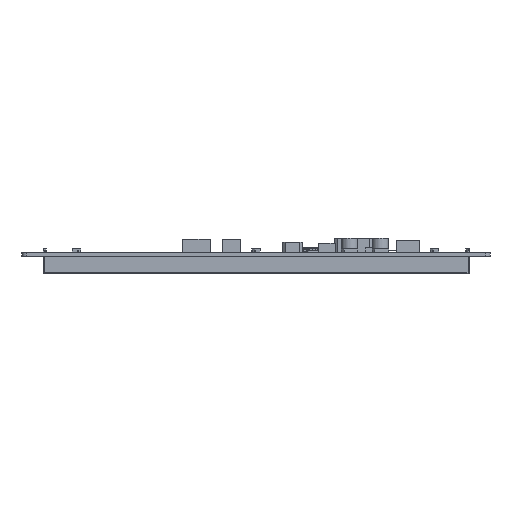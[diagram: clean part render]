
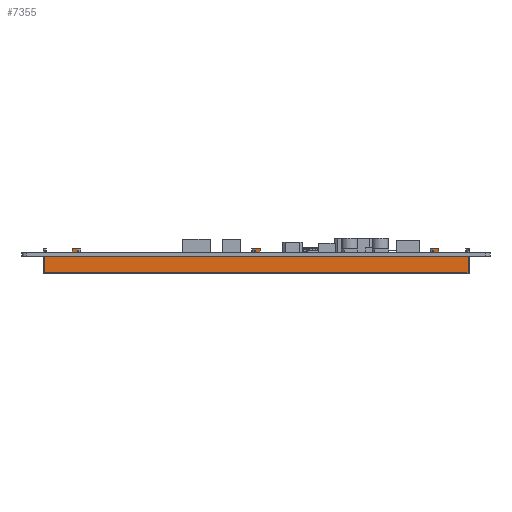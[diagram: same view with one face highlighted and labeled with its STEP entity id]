
A CAD part, left-side view. The second image highlights one B-rep face of the part: STEP entity #7355.
In plain terms, the highlighted planar face has unit normal (-1, 0, 0).
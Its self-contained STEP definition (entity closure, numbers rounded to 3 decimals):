
#4548=PLANE('',#63285);
#7355=ADVANCED_FACE('',(#10672),#4548,.T.);
#10672=FACE_OUTER_BOUND('',#13674,.T.);
#13674=EDGE_LOOP('',(#28948,#28949,#28950,#28951,#28952,#28953,#28954,#28955,
#28956,#28957,#28958,#28959,#28960,#28961,#28962,#28963,#28964,#28965,#28966,
#28967,#28968,#28969));
#28948=ORIENTED_EDGE('',*,*,#43136,.F.);
#28949=ORIENTED_EDGE('',*,*,#43137,.T.);
#28950=ORIENTED_EDGE('',*,*,#43138,.T.);
#28951=ORIENTED_EDGE('',*,*,#43139,.F.);
#28952=ORIENTED_EDGE('',*,*,#43140,.F.);
#28953=ORIENTED_EDGE('',*,*,#43141,.F.);
#28954=ORIENTED_EDGE('',*,*,#43142,.T.);
#28955=ORIENTED_EDGE('',*,*,#43143,.T.);
#28956=ORIENTED_EDGE('',*,*,#43144,.T.);
#28957=ORIENTED_EDGE('',*,*,#43133,.F.);
#28958=ORIENTED_EDGE('',*,*,#43145,.F.);
#28959=ORIENTED_EDGE('',*,*,#43146,.F.);
#28960=ORIENTED_EDGE('',*,*,#43147,.T.);
#28961=ORIENTED_EDGE('',*,*,#43148,.T.);
#28962=ORIENTED_EDGE('',*,*,#43149,.T.);
#28963=ORIENTED_EDGE('',*,*,#43129,.F.);
#28964=ORIENTED_EDGE('',*,*,#43150,.F.);
#28965=ORIENTED_EDGE('',*,*,#43151,.T.);
#28966=ORIENTED_EDGE('',*,*,#43152,.F.);
#28967=ORIENTED_EDGE('',*,*,#43153,.F.);
#28968=ORIENTED_EDGE('',*,*,#43154,.T.);
#28969=ORIENTED_EDGE('',*,*,#43127,.F.);
#35172=VERTEX_POINT('',#94328);
#35174=VERTEX_POINT('',#94332);
#35175=VERTEX_POINT('',#94336);
#35177=VERTEX_POINT('',#94339);
#35179=VERTEX_POINT('',#94345);
#35181=VERTEX_POINT('',#94348);
#35183=VERTEX_POINT('',#94354);
#35184=VERTEX_POINT('',#94356);
#35185=VERTEX_POINT('',#94358);
#35186=VERTEX_POINT('',#94360);
#35187=VERTEX_POINT('',#94362);
#35188=VERTEX_POINT('',#94364);
#35189=VERTEX_POINT('',#94366);
#35190=VERTEX_POINT('',#94368);
#35191=VERTEX_POINT('',#94371);
#35192=VERTEX_POINT('',#94373);
#35193=VERTEX_POINT('',#94375);
#35194=VERTEX_POINT('',#94377);
#35195=VERTEX_POINT('',#94380);
#35196=VERTEX_POINT('',#94382);
#35197=VERTEX_POINT('',#94384);
#35198=VERTEX_POINT('',#94386);
#43127=EDGE_CURVE('',#35174,#35172,#51607,.T.);
#43129=EDGE_CURVE('',#35175,#35177,#51609,.T.);
#43133=EDGE_CURVE('',#35179,#35181,#51613,.T.);
#43136=EDGE_CURVE('',#35183,#35174,#51616,.T.);
#43137=EDGE_CURVE('',#35183,#35184,#51617,.T.);
#43138=EDGE_CURVE('',#35184,#35185,#51618,.T.);
#43139=EDGE_CURVE('',#35186,#35185,#51619,.T.);
#43140=EDGE_CURVE('',#35187,#35186,#51620,.T.);
#43141=EDGE_CURVE('',#35188,#35187,#51621,.T.);
#43142=EDGE_CURVE('',#35188,#35189,#51622,.T.);
#43143=EDGE_CURVE('',#35189,#35190,#51623,.T.);
#43144=EDGE_CURVE('',#35190,#35181,#51624,.T.);
#43145=EDGE_CURVE('',#35191,#35179,#51625,.T.);
#43146=EDGE_CURVE('',#35192,#35191,#51626,.T.);
#43147=EDGE_CURVE('',#35192,#35193,#51627,.T.);
#43148=EDGE_CURVE('',#35193,#35194,#51628,.T.);
#43149=EDGE_CURVE('',#35194,#35177,#51629,.T.);
#43150=EDGE_CURVE('',#35195,#35175,#51630,.T.);
#43151=EDGE_CURVE('',#35195,#35196,#51631,.T.);
#43152=EDGE_CURVE('',#35197,#35196,#51632,.T.);
#43153=EDGE_CURVE('',#35198,#35197,#51633,.T.);
#43154=EDGE_CURVE('',#35198,#35172,#51634,.T.);
#51607=LINE('',#94333,#58812);
#51609=LINE('',#94338,#58814);
#51613=LINE('',#94347,#58818);
#51616=LINE('',#94353,#58821);
#51617=LINE('',#94355,#58822);
#51618=LINE('',#94357,#58823);
#51619=LINE('',#94359,#58824);
#51620=LINE('',#94361,#58825);
#51621=LINE('',#94363,#58826);
#51622=LINE('',#94365,#58827);
#51623=LINE('',#94367,#58828);
#51624=LINE('',#94369,#58829);
#51625=LINE('',#94370,#58830);
#51626=LINE('',#94372,#58831);
#51627=LINE('',#94374,#58832);
#51628=LINE('',#94376,#58833);
#51629=LINE('',#94378,#58834);
#51630=LINE('',#94379,#58835);
#51631=LINE('',#94381,#58836);
#51632=LINE('',#94383,#58837);
#51633=LINE('',#94385,#58838);
#51634=LINE('',#94387,#58839);
#58812=VECTOR('',#77228,1.);
#58814=VECTOR('',#77232,1.);
#58818=VECTOR('',#77238,1.);
#58821=VECTOR('',#77243,1.);
#58822=VECTOR('',#77244,1.);
#58823=VECTOR('',#77245,1.);
#58824=VECTOR('',#77246,1.);
#58825=VECTOR('',#77247,1.);
#58826=VECTOR('',#77248,1.);
#58827=VECTOR('',#77249,1.);
#58828=VECTOR('',#77250,1.);
#58829=VECTOR('',#77251,1.);
#58830=VECTOR('',#77252,1.);
#58831=VECTOR('',#77253,1.);
#58832=VECTOR('',#77254,1.);
#58833=VECTOR('',#77255,1.);
#58834=VECTOR('',#77256,1.);
#58835=VECTOR('',#77257,1.);
#58836=VECTOR('',#77258,1.);
#58837=VECTOR('',#77259,1.);
#58838=VECTOR('',#77260,1.);
#58839=VECTOR('',#77261,1.);
#63285=AXIS2_PLACEMENT_3D('',#94388,#77262,#77263);
#77228=DIRECTION('',(0.,-1.,0.));
#77232=DIRECTION('',(0.,-1.,0.));
#77238=DIRECTION('',(0.,-1.,0.));
#77243=DIRECTION('',(0.,0.,1.));
#77244=DIRECTION('',(0.,-1.,0.));
#77245=DIRECTION('',(0.,0.,1.));
#77246=DIRECTION('',(0.,-1.,0.));
#77247=DIRECTION('',(0.,0.,-1.));
#77248=DIRECTION('',(0.,-1.,0.));
#77249=DIRECTION('',(0.,0.,-1.));
#77250=DIRECTION('',(0.,-1.,0.));
#77251=DIRECTION('',(0.,0.,-1.));
#77252=DIRECTION('',(0.,0.,-1.));
#77253=DIRECTION('',(0.,-1.,0.));
#77254=DIRECTION('',(0.,0.,-1.));
#77255=DIRECTION('',(0.,-1.,0.));
#77256=DIRECTION('',(0.,0.,-1.));
#77257=DIRECTION('',(0.,0.,-1.));
#77258=DIRECTION('',(0.,-1.,0.));
#77259=DIRECTION('',(0.,0.,-1.));
#77260=DIRECTION('',(0.,-1.,0.));
#77261=DIRECTION('',(0.,0.,-1.));
#77262=DIRECTION('',(-1.,0.,0.));
#77263=DIRECTION('',(0.,-1.,0.));
#94328=CARTESIAN_POINT('',(-110.155,109.34,-1.6));
#94332=CARTESIAN_POINT('',(-110.155,120.865,-1.6));
#94333=CARTESIAN_POINT('',(-110.155,120.865,-1.6));
#94336=CARTESIAN_POINT('',(-110.155,107.34,-1.6));
#94338=CARTESIAN_POINT('',(-110.155,120.865,-1.6));
#94339=CARTESIAN_POINT('',(-110.155,33.463,-1.6));
#94345=CARTESIAN_POINT('',(-110.155,31.463,-1.6));
#94347=CARTESIAN_POINT('',(-110.155,120.865,-1.6));
#94348=CARTESIAN_POINT('',(-110.155,-40.462,-1.6));
#94353=CARTESIAN_POINT('',(-110.155,120.865,-8.8));
#94354=CARTESIAN_POINT('',(-110.155,120.865,-8.4));
#94355=CARTESIAN_POINT('',(-110.155,-54.535,-8.4));
#94356=CARTESIAN_POINT('',(-110.155,-54.535,-8.4));
#94357=CARTESIAN_POINT('',(-110.155,-54.535,-8.8));
#94358=CARTESIAN_POINT('',(-110.155,-54.535,-1.6));
#94359=CARTESIAN_POINT('',(-110.155,120.865,-1.6));
#94360=CARTESIAN_POINT('',(-110.155,-42.462,-1.6));
#94361=CARTESIAN_POINT('',(-110.155,-42.462,0.));
#94362=CARTESIAN_POINT('',(-110.155,-42.462,1.6));
#94363=CARTESIAN_POINT('',(-110.155,-40.344,1.6));
#94364=CARTESIAN_POINT('',(-110.155,-40.344,1.6));
#94365=CARTESIAN_POINT('',(-110.155,-40.344,1.6));
#94366=CARTESIAN_POINT('',(-110.155,-40.344,0.));
#94367=CARTESIAN_POINT('',(-110.155,-40.344,0.));
#94368=CARTESIAN_POINT('',(-110.155,-40.462,0.));
#94369=CARTESIAN_POINT('',(-110.155,-40.462,0.));
#94370=CARTESIAN_POINT('',(-110.155,31.463,0.));
#94371=CARTESIAN_POINT('',(-110.155,31.463,1.6));
#94372=CARTESIAN_POINT('',(-110.155,33.581,1.6));
#94373=CARTESIAN_POINT('',(-110.155,33.581,1.6));
#94374=CARTESIAN_POINT('',(-110.155,33.581,1.6));
#94375=CARTESIAN_POINT('',(-110.155,33.581,0.));
#94376=CARTESIAN_POINT('',(-110.155,33.581,0.));
#94377=CARTESIAN_POINT('',(-110.155,33.463,0.));
#94378=CARTESIAN_POINT('',(-110.155,33.463,0.));
#94379=CARTESIAN_POINT('',(-110.155,107.34,0.));
#94380=CARTESIAN_POINT('',(-110.155,107.34,0.));
#94381=CARTESIAN_POINT('',(-110.155,109.34,0.));
#94382=CARTESIAN_POINT('',(-110.155,107.196,0.));
#94383=CARTESIAN_POINT('',(-110.155,107.196,1.6));
#94384=CARTESIAN_POINT('',(-110.155,107.196,1.6));
#94385=CARTESIAN_POINT('',(-110.155,109.34,1.6));
#94386=CARTESIAN_POINT('',(-110.155,109.34,1.6));
#94387=CARTESIAN_POINT('',(-110.155,109.34,0.));
#94388=CARTESIAN_POINT('',(-110.155,120.865,-8.8));
